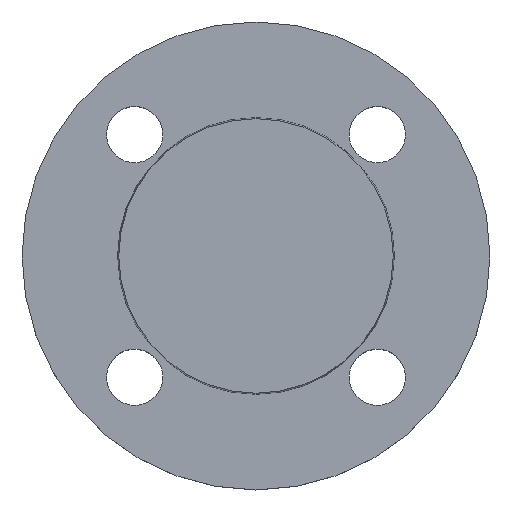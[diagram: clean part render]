
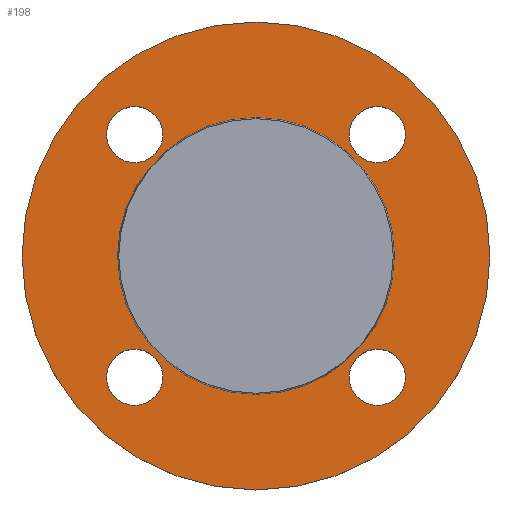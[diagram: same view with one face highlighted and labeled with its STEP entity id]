
A CAD part, top view. The second image highlights one B-rep face of the part: STEP entity #198.
In plain terms, the highlighted planar face has unit normal (0, 0, 1).
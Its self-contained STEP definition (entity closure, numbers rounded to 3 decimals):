
#5 = CIRCLE ( 'NONE', #475, 9. ) ;
#9 = EDGE_CURVE ( 'NONE', #189, #213, #5, .T. ) ;
#10 = EDGE_CURVE ( 'NONE', #202, #229, #87, .T. ) ;
#11 = AXIS2_PLACEMENT_3D ( 'NONE', #283, #284, #285 ) ;
#22 = AXIS2_PLACEMENT_3D ( 'NONE', #347, #348, #349 ) ;
#37 = CIRCLE ( 'NONE', #59, 75. ) ;
#40 = EDGE_CURVE ( 'NONE', #213, #189, #65, .T. ) ;
#45 = AXIS2_PLACEMENT_3D ( 'NONE', #369, #370, #371 ) ;
#59 = AXIS2_PLACEMENT_3D ( 'NONE', #503, #504, #505 ) ;
#61 = CIRCLE ( 'NONE', #267, 9. ) ;
#65 = CIRCLE ( 'NONE', #11, 9. ) ;
#72 = CIRCLE ( 'NONE', #492, 75. ) ;
#74 = AXIS2_PLACEMENT_3D ( 'NONE', #468, #469, #470 ) ;
#76 = CIRCLE ( 'NONE', #74, 9. ) ;
#80 = AXIS2_PLACEMENT_3D ( 'NONE', #253, #254, #255 ) ;
#83 = CIRCLE ( 'NONE', #278, 44.353 ) ;
#85 = EDGE_CURVE ( 'NONE', #102, #194, #391, .T. ) ;
#86 = CIRCLE ( 'NONE', #394, 9. ) ;
#87 = CIRCLE ( 'NONE', #80, 44.353 ) ;
#94 = AXIS2_PLACEMENT_3D ( 'NONE', #420, #421, #422 ) ;
#99 = EDGE_CURVE ( 'NONE', #214, #110, #86, .T. ) ;
#101 = VERTEX_POINT ( 'NONE', #361 ) ;
#102 = VERTEX_POINT ( 'NONE', #362 ) ;
#109 = EDGE_CURVE ( 'NONE', #217, #101, #273, .T. ) ;
#110 = VERTEX_POINT ( 'NONE', #366 ) ;
#114 = AXIS2_PLACEMENT_3D ( 'NONE', #363, #364, #365 ) ;
#140 = ORIENTED_EDGE ( 'NONE', *, *, #109, .T. ) ;
#141 = ORIENTED_EDGE ( 'NONE', *, *, #339, .T. ) ;
#142 = ORIENTED_EDGE ( 'NONE', *, *, #9, .T. ) ;
#143 = ORIENTED_EDGE ( 'NONE', *, *, #40, .T. ) ;
#144 = ORIENTED_EDGE ( 'NONE', *, *, #358, .T. ) ;
#145 = ORIENTED_EDGE ( 'NONE', *, *, #85, .T. ) ;
#146 = EDGE_CURVE ( 'NONE', #110, #214, #507, .T. ) ;
#147 = ORIENTED_EDGE ( 'NONE', *, *, #146, .T. ) ;
#148 = ORIENTED_EDGE ( 'NONE', *, *, #99, .T. ) ;
#150 = EDGE_CURVE ( 'NONE', #229, #202, #83, .T. ) ;
#151 = ORIENTED_EDGE ( 'NONE', *, *, #10, .T. ) ;
#152 = EDGE_LOOP ( 'NONE', ( #151, #153 ) ) ;
#153 = ORIENTED_EDGE ( 'NONE', *, *, #150, .T. ) ;
#154 = ORIENTED_EDGE ( 'NONE', *, *, #389, .F. ) ;
#155 = ORIENTED_EDGE ( 'NONE', *, *, #508, .F. ) ;
#189 = VERTEX_POINT ( 'NONE', #409 ) ;
#193 = EDGE_LOOP ( 'NONE', ( #144, #145 ) ) ;
#194 = VERTEX_POINT ( 'NONE', #411 ) ;
#198 = ADVANCED_FACE ( 'NONE', ( #413, #414, #415, #416, #417, #418 ), #419, .T. ) ;
#200 = EDGE_LOOP ( 'NONE', ( #154, #155 ) ) ;
#202 = VERTEX_POINT ( 'NONE', #426 ) ;
#206 = EDGE_LOOP ( 'NONE', ( #142, #143 ) ) ;
#208 = VERTEX_POINT ( 'NONE', #428 ) ;
#213 = VERTEX_POINT ( 'NONE', #430 ) ;
#214 = VERTEX_POINT ( 'NONE', #431 ) ;
#217 = VERTEX_POINT ( 'NONE', #434 ) ;
#218 = EDGE_LOOP ( 'NONE', ( #147, #148 ) ) ;
#219 = EDGE_LOOP ( 'NONE', ( #140, #141 ) ) ;
#227 = VERTEX_POINT ( 'NONE', #439 ) ;
#229 = VERTEX_POINT ( 'NONE', #446 ) ;
#249 = CARTESIAN_POINT ( 'NONE',  ( -38.891, -38.891, -2. ) ) ;
#250 = DIRECTION ( 'NONE',  ( 0., 0., -1. ) ) ;
#251 = DIRECTION ( 'NONE',  ( 1., 0., 0. ) ) ;
#253 = CARTESIAN_POINT ( 'NONE',  ( 0., 0., -2. ) ) ;
#254 = DIRECTION ( 'NONE',  ( 0., 0., -1. ) ) ;
#255 = DIRECTION ( 'NONE',  ( -1., 0., 0. ) ) ;
#260 = DIRECTION ( 'NONE',  ( 1., 0., 0. ) ) ;
#267 = AXIS2_PLACEMENT_3D ( 'NONE', #477, #478, #260 ) ;
#273 = CIRCLE ( 'NONE', #114, 9. ) ;
#278 = AXIS2_PLACEMENT_3D ( 'NONE', #372, #373, #374 ) ;
#283 = CARTESIAN_POINT ( 'NONE',  ( -38.891, -38.891, -2. ) ) ;
#284 = DIRECTION ( 'NONE',  ( 0., 0., -1. ) ) ;
#285 = DIRECTION ( 'NONE',  ( 1., 0., 0. ) ) ;
#339 = EDGE_CURVE ( 'NONE', #101, #217, #76, .T. ) ;
#347 = CARTESIAN_POINT ( 'NONE',  ( -38.891, 38.891, -2. ) ) ;
#348 = DIRECTION ( 'NONE',  ( 0., 0., -1. ) ) ;
#349 = DIRECTION ( 'NONE',  ( 1., 0., 0. ) ) ;
#356 = CARTESIAN_POINT ( 'NONE',  ( 38.891, 38.891, -2. ) ) ;
#358 = EDGE_CURVE ( 'NONE', #194, #102, #61, .T. ) ;
#359 = DIRECTION ( 'NONE',  ( 0., 0., -1. ) ) ;
#360 = DIRECTION ( 'NONE',  ( 1., 0., 0. ) ) ;
#361 = CARTESIAN_POINT ( 'NONE',  ( 29.891, -38.891, -2. ) ) ;
#362 = CARTESIAN_POINT ( 'NONE',  ( -47.891, 38.891, -2. ) ) ;
#363 = CARTESIAN_POINT ( 'NONE',  ( 38.891, -38.891, -2. ) ) ;
#364 = DIRECTION ( 'NONE',  ( 0., 0., -1. ) ) ;
#365 = DIRECTION ( 'NONE',  ( 1., 0., 0. ) ) ;
#366 = CARTESIAN_POINT ( 'NONE',  ( 47.891, 38.891, -2. ) ) ;
#369 = CARTESIAN_POINT ( 'NONE',  ( 38.891, 38.891, -2. ) ) ;
#370 = DIRECTION ( 'NONE',  ( 0., 0., -1. ) ) ;
#371 = DIRECTION ( 'NONE',  ( 1., 0., 0. ) ) ;
#372 = CARTESIAN_POINT ( 'NONE',  ( 0., 0., -2. ) ) ;
#373 = DIRECTION ( 'NONE',  ( 0., 0., -1. ) ) ;
#374 = DIRECTION ( 'NONE',  ( -1., 0., 0. ) ) ;
#389 = EDGE_CURVE ( 'NONE', #208, #227, #72, .T. ) ;
#391 = CIRCLE ( 'NONE', #22, 9. ) ;
#394 = AXIS2_PLACEMENT_3D ( 'NONE', #356, #359, #360 ) ;
#409 = CARTESIAN_POINT ( 'NONE',  ( -29.891, -38.891, -2. ) ) ;
#411 = CARTESIAN_POINT ( 'NONE',  ( -29.891, 38.891, -2. ) ) ;
#413 = FACE_BOUND ( 'NONE', #219, .T. ) ;
#414 = FACE_BOUND ( 'NONE', #206, .T. ) ;
#415 = FACE_BOUND ( 'NONE', #193, .T. ) ;
#416 = FACE_BOUND ( 'NONE', #218, .T. ) ;
#417 = FACE_BOUND ( 'NONE', #152, .T. ) ;
#418 = FACE_OUTER_BOUND ( 'NONE', #200, .T. ) ;
#419 = PLANE ( 'NONE',  #94 ) ;
#420 = CARTESIAN_POINT ( 'NONE',  ( 44.353, 0., -2. ) ) ;
#421 = DIRECTION ( 'NONE',  ( 0., 0., 1. ) ) ;
#422 = DIRECTION ( 'NONE',  ( 1., 0., 0. ) ) ;
#426 = CARTESIAN_POINT ( 'NONE',  ( -44.353, 0., -2. ) ) ;
#428 = CARTESIAN_POINT ( 'NONE',  ( 75., 0., -2. ) ) ;
#430 = CARTESIAN_POINT ( 'NONE',  ( -47.891, -38.891, -2. ) ) ;
#431 = CARTESIAN_POINT ( 'NONE',  ( 29.891, 38.891, -2. ) ) ;
#434 = CARTESIAN_POINT ( 'NONE',  ( 47.891, -38.891, -2. ) ) ;
#439 = CARTESIAN_POINT ( 'NONE',  ( -75., 0., -2. ) ) ;
#446 = CARTESIAN_POINT ( 'NONE',  ( 44.353, 0., -2. ) ) ;
#468 = CARTESIAN_POINT ( 'NONE',  ( 38.891, -38.891, -2. ) ) ;
#469 = DIRECTION ( 'NONE',  ( 0., 0., -1. ) ) ;
#470 = DIRECTION ( 'NONE',  ( 1., 0., 0. ) ) ;
#475 = AXIS2_PLACEMENT_3D ( 'NONE', #249, #250, #251 ) ;
#477 = CARTESIAN_POINT ( 'NONE',  ( -38.891, 38.891, -2. ) ) ;
#478 = DIRECTION ( 'NONE',  ( 0., 0., -1. ) ) ;
#483 = CARTESIAN_POINT ( 'NONE',  ( 0., 0., -2. ) ) ;
#484 = DIRECTION ( 'NONE',  ( 0., 0., -1. ) ) ;
#485 = DIRECTION ( 'NONE',  ( -1., 0., 0. ) ) ;
#492 = AXIS2_PLACEMENT_3D ( 'NONE', #483, #484, #485 ) ;
#503 = CARTESIAN_POINT ( 'NONE',  ( 0., 0., -2. ) ) ;
#504 = DIRECTION ( 'NONE',  ( 0., 0., -1. ) ) ;
#505 = DIRECTION ( 'NONE',  ( -1., 0., 0. ) ) ;
#507 = CIRCLE ( 'NONE', #45, 9. ) ;
#508 = EDGE_CURVE ( 'NONE', #227, #208, #37, .T. ) ;
